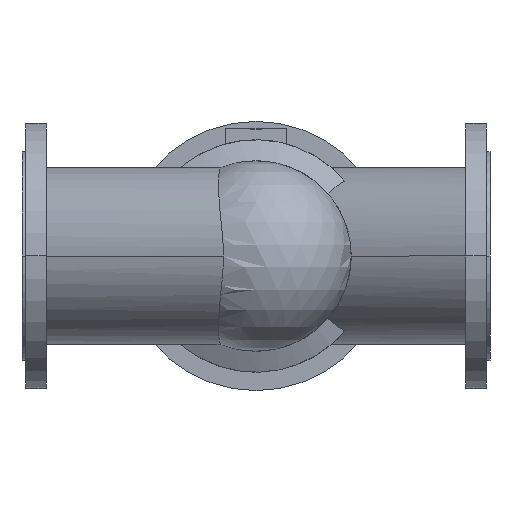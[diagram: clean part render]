
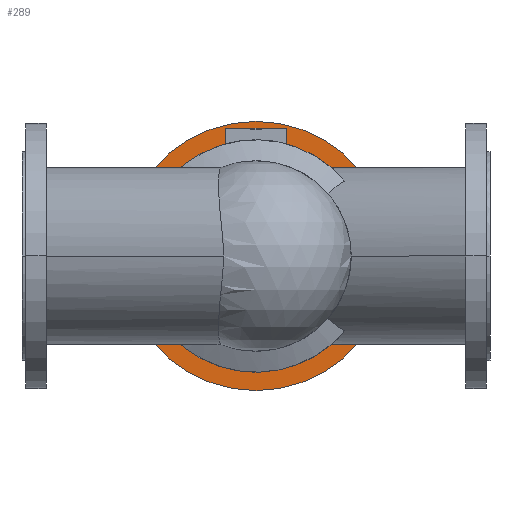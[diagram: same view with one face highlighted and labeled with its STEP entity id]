
A CAD part, front view. The second image highlights one B-rep face of the part: STEP entity #289.
In plain terms, the highlighted planar face has unit normal (0, -1, 0).
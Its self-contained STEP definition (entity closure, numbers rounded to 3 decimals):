
#289 = ADVANCED_FACE( '', ( #765, #766 ), #767, .T. );
#765 = FACE_OUTER_BOUND( '', #1324, .T. );
#766 = FACE_BOUND( '', #1325, .T. );
#767 = PLANE( '', #1326 );
#1324 = EDGE_LOOP( '', ( #2808, #2809 ) );
#1325 = EDGE_LOOP( '', ( #2810, #2811 ) );
#1326 = AXIS2_PLACEMENT_3D( '', #2812, #2813, #2814 );
#2808 = ORIENTED_EDGE( '', *, *, #3658, .T. );
#2809 = ORIENTED_EDGE( '', *, *, #3451, .T. );
#2810 = ORIENTED_EDGE( '', *, *, #3385, .F. );
#2811 = ORIENTED_EDGE( '', *, *, #3806, .F. );
#2812 = CARTESIAN_POINT( '', ( 138.75, 194.5, 0. ) );
#2813 = DIRECTION( '', ( 0., -1., 0. ) );
#2814 = DIRECTION( '', ( -1., 0., 0. ) );
#3385 = EDGE_CURVE( '', #3979, #3982, #3983, .T. );
#3451 = EDGE_CURVE( '', #4112, #4109, #4113, .T. );
#3658 = EDGE_CURVE( '', #4109, #4112, #4455, .T. );
#3806 = EDGE_CURVE( '', #3982, #3979, #4683, .T. );
#3979 = VERTEX_POINT( '', #4970 );
#3982 = VERTEX_POINT( '', #4974 );
#3983 = CIRCLE( '', #4975, 149. );
#4109 = VERTEX_POINT( '', #5335 );
#4112 = VERTEX_POINT( '', #5339 );
#4113 = CIRCLE( '', #5340, 172.5 );
#4455 = CIRCLE( '', #6139, 172.5 );
#4683 = CIRCLE( '', #6457, 149. );
#4970 = CARTESIAN_POINT( '', ( 151., 194.5, 0. ) );
#4974 = CARTESIAN_POINT( '', ( 449., 194.5, 0. ) );
#4975 = AXIS2_PLACEMENT_3D( '', #6838, #6839, #6840 );
#5335 = CARTESIAN_POINT( '', ( 472.5, 194.5, 0. ) );
#5339 = CARTESIAN_POINT( '', ( 127.5, 194.5, 0. ) );
#5340 = AXIS2_PLACEMENT_3D( '', #6962, #6963, #6964 );
#6139 = AXIS2_PLACEMENT_3D( '', #7423, #7424, #7425 );
#6457 = AXIS2_PLACEMENT_3D( '', #7687, #7688, #7689 );
#6838 = CARTESIAN_POINT( '', ( 300., 194.5, 0. ) );
#6839 = DIRECTION( '', ( 0., -1., 0. ) );
#6840 = DIRECTION( '', ( -1., 0., 0. ) );
#6962 = CARTESIAN_POINT( '', ( 300., 194.5, 0. ) );
#6963 = DIRECTION( '', ( 0., -1., 0. ) );
#6964 = DIRECTION( '', ( 1., 0., 0. ) );
#7423 = CARTESIAN_POINT( '', ( 300., 194.5, 0. ) );
#7424 = DIRECTION( '', ( 0., -1., 0. ) );
#7425 = DIRECTION( '', ( 1., 0., 0. ) );
#7687 = CARTESIAN_POINT( '', ( 300., 194.5, 0. ) );
#7688 = DIRECTION( '', ( 0., -1., 0. ) );
#7689 = DIRECTION( '', ( -1., 0., 0. ) );
